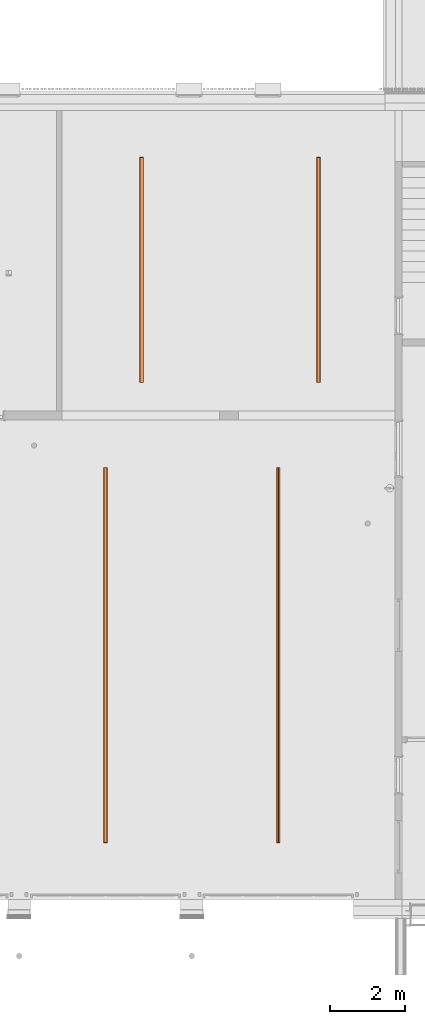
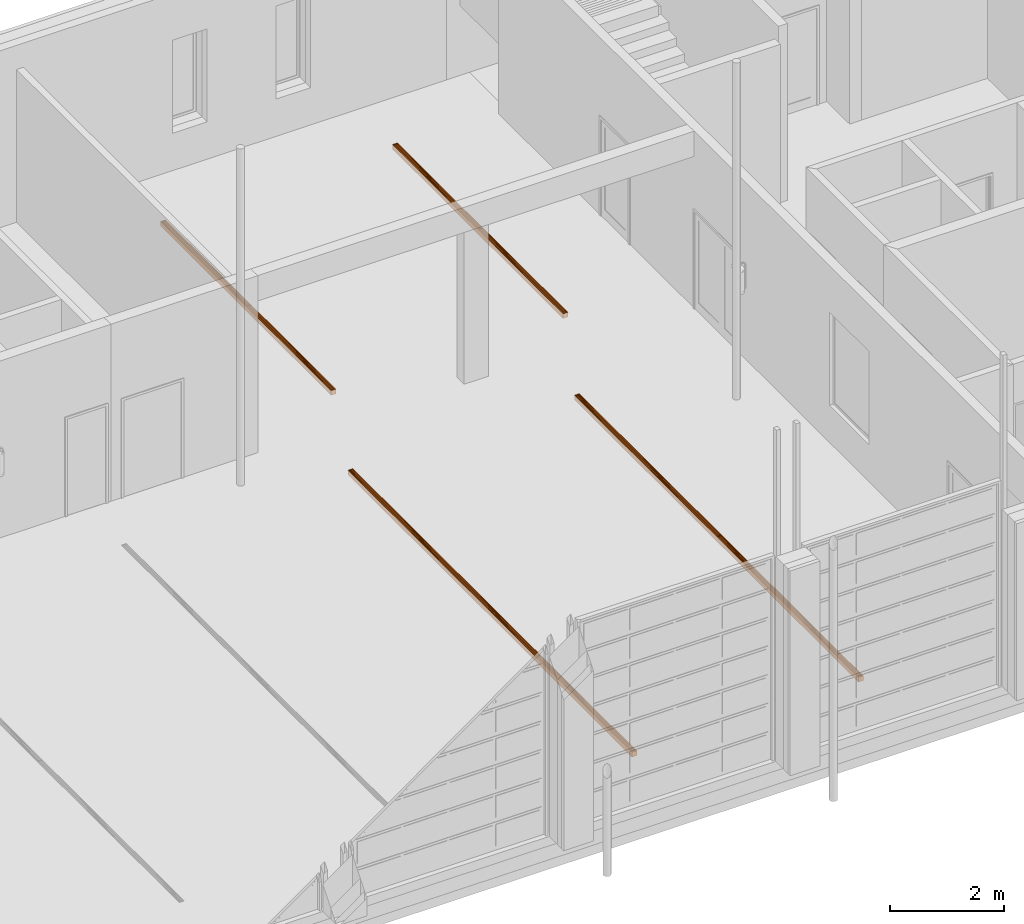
# One storey, part 67 of 112: 4 proxies.
"""IFC2X3 building model written with IfcOpenShell, lengths in millimetres."""

from ifc_helpers import new_model, entity, si_unit, converted_unit, derived_unit, money_unit, direction, frame, origin_with_axes, place, context, subcontext, project, spatial, faceted_brep, source, transform, mapped, type_object, element, save


model = new_model("IFC2X3")

# Units and contexts
model_context = context("Model", 3, precision=0.01, world=origin_with_axes(), true_north=direction((0.0, 1.0)))
body_context = subcontext(model_context, "Body", "Model", "MODEL_VIEW")
ifc_project = project(units=[si_unit("LENGTHUNIT", "METRE", prefix="MILLI"), si_unit("AREAUNIT", "SQUARE_METRE"), si_unit("VOLUMEUNIT", "CUBIC_METRE"), converted_unit("PLANEANGLEUNIT", "DEGREE", entity("IfcPlaneAngleMeasure", 0.0174532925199), si_unit("PLANEANGLEUNIT", "RADIAN"), dimensions=[0, 0, 0, 0, 0, 0, 0]), si_unit("SOLIDANGLEUNIT", "STERADIAN"), money_unit("EUR"), converted_unit("TIMEUNIT", "Year", entity("IfcTimeMeasure", 31556926.0), si_unit("TIMEUNIT", "SECOND"), dimensions=[0, 0, 1, 0, 0, 0, 0]), si_unit("MASSUNIT", "GRAM", prefix="KILO"), si_unit("THERMODYNAMICTEMPERATUREUNIT", "DEGREE_CELSIUS"), si_unit("LUMINOUSINTENSITYUNIT", "LUMEN"), si_unit("ENERGYUNIT", "JOULE", prefix="MEGA"), derived_unit("THERMALCONDUCTANCEUNIT", [(si_unit("POWERUNIT", "WATT"), 1), (si_unit("LENGTHUNIT", "METRE"), -1), (si_unit("THERMODYNAMICTEMPERATUREUNIT", "KELVIN"), -1)]), derived_unit("SPECIFICHEATCAPACITYUNIT", [(si_unit("ENERGYUNIT", "JOULE"), 1), (si_unit("MASSUNIT", "GRAM", prefix="KILO"), -1), (si_unit("THERMODYNAMICTEMPERATUREUNIT", "KELVIN"), -1)]), derived_unit("MASSDENSITYUNIT", [(si_unit("MASSUNIT", "GRAM", prefix="KILO"), 1), (si_unit("VOLUMEUNIT", "CUBIC_METRE"), -1)])], contexts=[model_context])

# Site, building, storey
site_placement = place(None, origin_with_axes())
site = spatial("IfcSite", under=ifc_project, at=site_placement, Name="Politse- ja Piirivalveameti ning Päästeameti ühishoone", CompositionType="ELEMENT")
building_placement = place(site_placement, origin_with_axes())
building = spatial("IfcBuilding", under=site, at=building_placement, Name="Politse- ja Piirivalveameti ning Päästeameti ühishoone", CompositionType="ELEMENT")
storey_placement = place(building_placement, origin_with_axes())
storey = spatial("IfcBuildingStorey", under=building, at=storey_placement, Name="Esimene korrus", CompositionType="ELEMENT", Elevation=0.0)

# Proxies
building_element_proxy_type = type_object("IfcBuildingElementProxyType", Name="Grid 23", PredefinedType="NOTDEFINED")
shared_shape_1 = source(origin_with_axes(), body_context, "Body", "Brep", [
    faceted_brep([(0.0, 0.0, 0.0), (5.0, 5.0, 0.0), (5.0, 5.0, 100.0), (0.0, 0.0, 100.0), (0.0, 10000.0, 0.0), (5.0, 9995.0, 0.0), (5.0, 5001.0, 0.0), (5.0, 4999.0, 0.0), (5.0, 4999.0, 100.0), (5.0, 5001.0, 100.0), (5.0, 9995.0, 100.0), (0.0, 10000.0, 100.0)], [[[0, 1, 2, 3]], [[0, 4, 5, 6, 7, 1]], [[1, 7, 8, 2]], [[3, 2, 8, 9, 10, 11]], [[4, 0, 3, 11]], [[5, 4, 11, 10]], [[6, 5, 10, 9]], [[7, 6, 9, 8]]]),
    faceted_brep([(100.0, 10000.0, 0.0), (95.0, 9995.0, 0.0), (95.0, 9995.0, 100.0), (100.0, 10000.0, 100.0), (100.0, 0.0, 0.0), (95.0, 5.0, 0.0), (95.0, 4999.0, 0.0), (95.0, 5001.0, 0.0), (95.0, 5001.0, 100.0), (95.0, 4999.0, 100.0), (95.0, 5.0, 100.0), (100.0, 0.0, 100.0)], [[[0, 1, 2, 3]], [[0, 4, 5, 6, 7, 1]], [[1, 7, 8, 2]], [[3, 2, 8, 9, 10, 11]], [[4, 0, 3, 11]], [[5, 4, 11, 10]], [[6, 5, 10, 9]], [[7, 6, 9, 8]]]),
    faceted_brep([(100.0, 0.0, 0.0), (95.0, 5.0, 0.0), (95.0, 5.0, 100.0), (100.0, 0.0, 100.0), (0.0, 0.0, 0.0), (5.0, 5.0, 0.0), (25.25, 5.0, 0.0), (27.25, 5.0, 0.0), (49.0, 5.0, 0.0), (51.0, 5.0, 0.0), (72.75, 5.0, 0.0), (74.75, 5.0, 0.0), (74.75, 5.0, 100.0), (72.75, 5.0, 100.0), (51.0, 5.0, 100.0), (49.0, 5.0, 100.0), (27.25, 5.0, 100.0), (25.25, 5.0, 100.0), (5.0, 5.0, 100.0), (0.0, 0.0, 100.0)], [[[0, 1, 2, 3]], [[0, 4, 5, 6, 7, 8, 9, 10, 11, 1]], [[1, 11, 12, 2]], [[3, 2, 12, 13, 14, 15, 16, 17, 18, 19]], [[4, 0, 3, 19]], [[5, 4, 19, 18]], [[6, 5, 18, 17]], [[7, 6, 17, 16]], [[8, 7, 16, 15]], [[9, 8, 15, 14]], [[10, 9, 14, 13]], [[11, 10, 13, 12]]]),
    faceted_brep([(0.0, 10000.0, 0.0), (5.0, 9995.0, 0.0), (5.0, 9995.0, 100.0), (0.0, 10000.0, 100.0), (100.0, 10000.0, 0.0), (95.0, 9995.0, 0.0), (74.75, 9995.0, 0.0), (72.75, 9995.0, 0.0), (51.0, 9995.0, 0.0), (49.0, 9995.0, 0.0), (27.25, 9995.0, 0.0), (25.25, 9995.0, 0.0), (25.25, 9995.0, 100.0), (27.25, 9995.0, 100.0), (49.0, 9995.0, 100.0), (51.0, 9995.0, 100.0), (72.75, 9995.0, 100.0), (74.75, 9995.0, 100.0), (95.0, 9995.0, 100.0), (100.0, 10000.0, 100.0)], [[[0, 1, 2, 3]], [[0, 4, 5, 6, 7, 8, 9, 10, 11, 1]], [[1, 11, 12, 2]], [[3, 2, 12, 13, 14, 15, 16, 17, 18, 19]], [[4, 0, 3, 19]], [[5, 4, 19, 18]], [[6, 5, 18, 17]], [[7, 6, 17, 16]], [[8, 7, 16, 15]], [[9, 8, 15, 14]], [[10, 9, 14, 13]], [[11, 10, 13, 12]]]),
    faceted_brep([(25.25, 5.0, 0.0), (27.25, 5.0, 0.0), (27.25, 5.0, 100.0), (25.25, 5.0, 100.0), (25.25, 4999.0, 0.0), (25.25, 5001.0, 0.0), (25.25, 9995.0, 0.0), (27.25, 9995.0, 0.0), (27.25, 5001.0, 0.0), (27.25, 4999.0, 0.0), (27.25, 4999.0, 100.0), (27.25, 5001.0, 100.0), (27.25, 9995.0, 100.0), (25.25, 9995.0, 100.0), (25.25, 5001.0, 100.0), (25.25, 4999.0, 100.0)], [[[0, 1, 2, 3]], [[0, 4, 5, 6, 7, 8, 9, 1]], [[1, 9, 10, 2]], [[3, 2, 10, 11, 12, 13, 14, 15]], [[4, 0, 3, 15]], [[5, 4, 15, 14]], [[6, 5, 14, 13]], [[7, 6, 13, 12]], [[8, 7, 12, 11]], [[9, 8, 11, 10]]]),
    faceted_brep([(49.0, 5.0, 0.0), (51.0, 5.0, 0.0), (51.0, 5.0, 100.0), (49.0, 5.0, 100.0), (49.0, 4999.0, 0.0), (49.0, 5001.0, 0.0), (49.0, 9995.0, 0.0), (51.0, 9995.0, 0.0), (51.0, 5001.0, 0.0), (51.0, 4999.0, 0.0), (51.0, 4999.0, 100.0), (51.0, 5001.0, 100.0), (51.0, 9995.0, 100.0), (49.0, 9995.0, 100.0), (49.0, 5001.0, 100.0), (49.0, 4999.0, 100.0)], [[[0, 1, 2, 3]], [[0, 4, 5, 6, 7, 8, 9, 1]], [[1, 9, 10, 2]], [[3, 2, 10, 11, 12, 13, 14, 15]], [[4, 0, 3, 15]], [[5, 4, 15, 14]], [[6, 5, 14, 13]], [[7, 6, 13, 12]], [[8, 7, 12, 11]], [[9, 8, 11, 10]]]),
    faceted_brep([(72.75, 5.0, 0.0), (74.75, 5.0, 0.0), (74.75, 5.0, 100.0), (72.75, 5.0, 100.0), (72.75, 4999.0, 0.0), (72.75, 5001.0, 0.0), (72.75, 9995.0, 0.0), (74.75, 9995.0, 0.0), (74.75, 5001.0, 0.0), (74.75, 4999.0, 0.0), (74.75, 4999.0, 100.0), (74.75, 5001.0, 100.0), (74.75, 9995.0, 100.0), (72.75, 9995.0, 100.0), (72.75, 5001.0, 100.0), (72.75, 4999.0, 100.0)], [[[0, 1, 2, 3]], [[0, 4, 5, 6, 7, 8, 9, 1]], [[1, 9, 10, 2]], [[3, 2, 10, 11, 12, 13, 14, 15]], [[4, 0, 3, 15]], [[5, 4, 15, 14]], [[6, 5, 14, 13]], [[7, 6, 13, 12]], [[8, 7, 12, 11]], [[9, 8, 11, 10]]]),
    faceted_brep([(25.25, 4999.0, 0.0), (25.25, 5001.0, 0.0), (25.25, 5001.0, 100.0), (25.25, 4999.0, 100.0), (5.0, 4999.0, 0.0), (5.0, 5001.0, 0.0), (5.0, 5001.0, 100.0), (5.0, 4999.0, 100.0)], [[[0, 1, 2, 3]], [[0, 4, 5, 1]], [[1, 5, 6, 2]], [[3, 2, 6, 7]], [[4, 0, 3, 7]], [[5, 4, 7, 6]]]),
    faceted_brep([(49.0, 4999.0, 0.0), (49.0, 5001.0, 0.0), (49.0, 5001.0, 100.0), (49.0, 4999.0, 100.0), (27.25, 4999.0, 0.0), (27.25, 5001.0, 0.0), (27.25, 5001.0, 100.0), (27.25, 4999.0, 100.0)], [[[0, 1, 2, 3]], [[0, 4, 5, 1]], [[1, 5, 6, 2]], [[3, 2, 6, 7]], [[4, 0, 3, 7]], [[5, 4, 7, 6]]]),
    faceted_brep([(72.75, 4999.0, 0.0), (72.75, 5001.0, 0.0), (72.75, 5001.0, 100.0), (72.75, 4999.0, 100.0), (51.0, 4999.0, 0.0), (51.0, 5001.0, 0.0), (51.0, 5001.0, 100.0), (51.0, 4999.0, 100.0)], [[[0, 1, 2, 3]], [[0, 4, 5, 1]], [[1, 5, 6, 2]], [[3, 2, 6, 7]], [[4, 0, 3, 7]], [[5, 4, 7, 6]]]),
    faceted_brep([(95.0, 4999.0, 0.0), (95.0, 5001.0, 0.0), (95.0, 5001.0, 100.0), (95.0, 4999.0, 100.0), (74.75, 4999.0, 0.0), (74.75, 5001.0, 0.0), (74.75, 5001.0, 100.0), (74.75, 4999.0, 100.0)], [[[0, 1, 2, 3]], [[0, 4, 5, 1]], [[1, 5, 6, 2]], [[3, 2, 6, 7]], [[4, 0, 3, 7]], [[5, 4, 7, 6]]]),
    faceted_brep([(5.0, 5.0, 43.65), (25.25, 5.0, 43.65), (25.25, 5.0, 56.35), (5.0, 5.0, 56.35), (5.0, 4999.0, 43.65), (25.25, 4999.0, 43.65), (25.25, 4999.0, 56.35), (5.0, 4999.0, 56.35)], [[[0, 1, 2, 3]], [[0, 4, 5, 1]], [[1, 5, 6, 2]], [[3, 2, 6, 7]], [[4, 0, 3, 7]], [[5, 4, 7, 6]]]),
    faceted_brep([(5.0, 5001.0, 43.65), (25.25, 5001.0, 43.65), (25.25, 5001.0, 56.35), (5.0, 5001.0, 56.35), (5.0, 9995.0, 43.65), (25.25, 9995.0, 43.65), (25.25, 9995.0, 56.35), (5.0, 9995.0, 56.35)], [[[0, 1, 2, 3]], [[0, 4, 5, 1]], [[1, 5, 6, 2]], [[3, 2, 6, 7]], [[4, 0, 3, 7]], [[5, 4, 7, 6]]]),
    faceted_brep([(27.25, 5.0, 43.65), (49.0, 5.0, 43.65), (49.0, 5.0, 56.35), (27.25, 5.0, 56.35), (27.25, 4999.0, 43.65), (49.0, 4999.0, 43.65), (49.0, 4999.0, 56.35), (27.25, 4999.0, 56.35)], [[[0, 1, 2, 3]], [[0, 4, 5, 1]], [[1, 5, 6, 2]], [[3, 2, 6, 7]], [[4, 0, 3, 7]], [[5, 4, 7, 6]]]),
    faceted_brep([(27.25, 5001.0, 43.65), (49.0, 5001.0, 43.65), (49.0, 5001.0, 56.35), (27.25, 5001.0, 56.35), (27.25, 9995.0, 43.65), (49.0, 9995.0, 43.65), (49.0, 9995.0, 56.35), (27.25, 9995.0, 56.35)], [[[0, 1, 2, 3]], [[0, 4, 5, 1]], [[1, 5, 6, 2]], [[3, 2, 6, 7]], [[4, 0, 3, 7]], [[5, 4, 7, 6]]]),
    faceted_brep([(51.0, 5.0, 43.65), (72.75, 5.0, 43.65), (72.75, 5.0, 56.35), (51.0, 5.0, 56.35), (51.0, 4999.0, 43.65), (72.75, 4999.0, 43.65), (72.75, 4999.0, 56.35), (51.0, 4999.0, 56.35)], [[[0, 1, 2, 3]], [[0, 4, 5, 1]], [[1, 5, 6, 2]], [[3, 2, 6, 7]], [[4, 0, 3, 7]], [[5, 4, 7, 6]]]),
    faceted_brep([(51.0, 5001.0, 43.65), (72.75, 5001.0, 43.65), (72.75, 5001.0, 56.35), (51.0, 5001.0, 56.35), (51.0, 9995.0, 43.65), (72.75, 9995.0, 43.65), (72.75, 9995.0, 56.35), (51.0, 9995.0, 56.35)], [[[0, 1, 2, 3]], [[0, 4, 5, 1]], [[1, 5, 6, 2]], [[3, 2, 6, 7]], [[4, 0, 3, 7]], [[5, 4, 7, 6]]]),
    faceted_brep([(74.75, 5.0, 43.65), (95.0, 5.0, 43.65), (95.0, 5.0, 56.35), (74.75, 5.0, 56.35), (74.75, 4999.0, 43.65), (95.0, 4999.0, 43.65), (95.0, 4999.0, 56.35), (74.75, 4999.0, 56.35)], [[[0, 1, 2, 3]], [[0, 4, 5, 1]], [[1, 5, 6, 2]], [[3, 2, 6, 7]], [[4, 0, 3, 7]], [[5, 4, 7, 6]]]),
    faceted_brep([(74.75, 5001.0, 43.65), (95.0, 5001.0, 43.65), (95.0, 5001.0, 56.35), (74.75, 5001.0, 56.35), (74.75, 9995.0, 43.65), (95.0, 9995.0, 43.65), (95.0, 9995.0, 56.35), (74.75, 9995.0, 56.35)], [[[0, 1, 2, 3]], [[0, 4, 5, 1]], [[1, 5, 6, 2]], [[3, 2, 6, 7]], [[4, 0, 3, 7]], [[5, 4, 7, 6]]]),
])
for number, where, z_axis, x_axis, name in (
    (1, (52209.3130938, 1502.5, -100.0), (0.0, 0.0, 1.0), (1.0, 0.0, 0.0), "Äravoolurenn (114)"),
    (2, (56809.3201216, 1502.5, -100.0), (0.0, 0.0, 1.0), (1.0, 0.0, 0.0), "Äravoolurenn (114)"),
):
    element("IfcBuildingElementProxy", number, at=place(storey_placement, frame(where, z_axis=z_axis, x_axis=x_axis)), inside=storey, type_object=building_element_proxy_type, Name=name, context=body_context, shape_type="MappedRepresentation", body=[
        mapped(shared_shape_1, transform((0.0, 0.0, 0.0))),
    ])
shared_shape_2 = source(origin_with_axes(), body_context, "Body", "Brep", [
    faceted_brep([(0.0, 0.0, 0.0), (5.0, 5.0, 0.0), (5.0, 5.0, 100.0), (0.0, 0.0, 100.0), (0.0, 6000.0, 0.0), (5.0, 5995.0, 0.0), (5.0, 3001.0, 0.0), (5.0, 2999.0, 0.0), (5.0, 2999.0, 100.0), (5.0, 3001.0, 100.0), (5.0, 5995.0, 100.0), (0.0, 6000.0, 100.0)], [[[0, 1, 2, 3]], [[0, 4, 5, 6, 7, 1]], [[1, 7, 8, 2]], [[3, 2, 8, 9, 10, 11]], [[4, 0, 3, 11]], [[5, 4, 11, 10]], [[6, 5, 10, 9]], [[7, 6, 9, 8]]]),
    faceted_brep([(100.0, 6000.0, 0.0), (95.0, 5995.0, 0.0), (95.0, 5995.0, 100.0), (100.0, 6000.0, 100.0), (100.0, 0.0, 0.0), (95.0, 5.0, 0.0), (95.0, 2999.0, 0.0), (95.0, 3001.0, 0.0), (95.0, 3001.0, 100.0), (95.0, 2999.0, 100.0), (95.0, 5.0, 100.0), (100.0, 0.0, 100.0)], [[[0, 1, 2, 3]], [[0, 4, 5, 6, 7, 1]], [[1, 7, 8, 2]], [[3, 2, 8, 9, 10, 11]], [[4, 0, 3, 11]], [[5, 4, 11, 10]], [[6, 5, 10, 9]], [[7, 6, 9, 8]]]),
    faceted_brep([(100.0, 0.0, 0.0), (95.0, 5.0, 0.0), (95.0, 5.0, 100.0), (100.0, 0.0, 100.0), (0.0, 0.0, 0.0), (5.0, 5.0, 0.0), (25.25, 5.0, 0.0), (27.25, 5.0, 0.0), (49.0, 5.0, 0.0), (51.0, 5.0, 0.0), (72.75, 5.0, 0.0), (74.75, 5.0, 0.0), (74.75, 5.0, 100.0), (72.75, 5.0, 100.0), (51.0, 5.0, 100.0), (49.0, 5.0, 100.0), (27.25, 5.0, 100.0), (25.25, 5.0, 100.0), (5.0, 5.0, 100.0), (0.0, 0.0, 100.0)], [[[0, 1, 2, 3]], [[0, 4, 5, 6, 7, 8, 9, 10, 11, 1]], [[1, 11, 12, 2]], [[3, 2, 12, 13, 14, 15, 16, 17, 18, 19]], [[4, 0, 3, 19]], [[5, 4, 19, 18]], [[6, 5, 18, 17]], [[7, 6, 17, 16]], [[8, 7, 16, 15]], [[9, 8, 15, 14]], [[10, 9, 14, 13]], [[11, 10, 13, 12]]]),
    faceted_brep([(0.0, 6000.0, 0.0), (5.0, 5995.0, 0.0), (5.0, 5995.0, 100.0), (0.0, 6000.0, 100.0), (100.0, 6000.0, 0.0), (95.0, 5995.0, 0.0), (74.75, 5995.0, 0.0), (72.75, 5995.0, 0.0), (51.0, 5995.0, 0.0), (49.0, 5995.0, 0.0), (27.25, 5995.0, 0.0), (25.25, 5995.0, 0.0), (25.25, 5995.0, 100.0), (27.25, 5995.0, 100.0), (49.0, 5995.0, 100.0), (51.0, 5995.0, 100.0), (72.75, 5995.0, 100.0), (74.75, 5995.0, 100.0), (95.0, 5995.0, 100.0), (100.0, 6000.0, 100.0)], [[[0, 1, 2, 3]], [[0, 4, 5, 6, 7, 8, 9, 10, 11, 1]], [[1, 11, 12, 2]], [[3, 2, 12, 13, 14, 15, 16, 17, 18, 19]], [[4, 0, 3, 19]], [[5, 4, 19, 18]], [[6, 5, 18, 17]], [[7, 6, 17, 16]], [[8, 7, 16, 15]], [[9, 8, 15, 14]], [[10, 9, 14, 13]], [[11, 10, 13, 12]]]),
    faceted_brep([(25.25, 5.0, 0.0), (27.25, 5.0, 0.0), (27.25, 5.0, 100.0), (25.25, 5.0, 100.0), (25.25, 2999.0, 0.0), (25.25, 3001.0, 0.0), (25.25, 5995.0, 0.0), (27.25, 5995.0, 0.0), (27.25, 3001.0, 0.0), (27.25, 2999.0, 0.0), (27.25, 2999.0, 100.0), (27.25, 3001.0, 100.0), (27.25, 5995.0, 100.0), (25.25, 5995.0, 100.0), (25.25, 3001.0, 100.0), (25.25, 2999.0, 100.0)], [[[0, 1, 2, 3]], [[0, 4, 5, 6, 7, 8, 9, 1]], [[1, 9, 10, 2]], [[3, 2, 10, 11, 12, 13, 14, 15]], [[4, 0, 3, 15]], [[5, 4, 15, 14]], [[6, 5, 14, 13]], [[7, 6, 13, 12]], [[8, 7, 12, 11]], [[9, 8, 11, 10]]]),
    faceted_brep([(49.0, 5.0, 0.0), (51.0, 5.0, 0.0), (51.0, 5.0, 100.0), (49.0, 5.0, 100.0), (49.0, 2999.0, 0.0), (49.0, 3001.0, 0.0), (49.0, 5995.0, 0.0), (51.0, 5995.0, 0.0), (51.0, 3001.0, 0.0), (51.0, 2999.0, 0.0), (51.0, 2999.0, 100.0), (51.0, 3001.0, 100.0), (51.0, 5995.0, 100.0), (49.0, 5995.0, 100.0), (49.0, 3001.0, 100.0), (49.0, 2999.0, 100.0)], [[[0, 1, 2, 3]], [[0, 4, 5, 6, 7, 8, 9, 1]], [[1, 9, 10, 2]], [[3, 2, 10, 11, 12, 13, 14, 15]], [[4, 0, 3, 15]], [[5, 4, 15, 14]], [[6, 5, 14, 13]], [[7, 6, 13, 12]], [[8, 7, 12, 11]], [[9, 8, 11, 10]]]),
    faceted_brep([(72.75, 5.0, 0.0), (74.75, 5.0, 0.0), (74.75, 5.0, 100.0), (72.75, 5.0, 100.0), (72.75, 2999.0, 0.0), (72.75, 3001.0, 0.0), (72.75, 5995.0, 0.0), (74.75, 5995.0, 0.0), (74.75, 3001.0, 0.0), (74.75, 2999.0, 0.0), (74.75, 2999.0, 100.0), (74.75, 3001.0, 100.0), (74.75, 5995.0, 100.0), (72.75, 5995.0, 100.0), (72.75, 3001.0, 100.0), (72.75, 2999.0, 100.0)], [[[0, 1, 2, 3]], [[0, 4, 5, 6, 7, 8, 9, 1]], [[1, 9, 10, 2]], [[3, 2, 10, 11, 12, 13, 14, 15]], [[4, 0, 3, 15]], [[5, 4, 15, 14]], [[6, 5, 14, 13]], [[7, 6, 13, 12]], [[8, 7, 12, 11]], [[9, 8, 11, 10]]]),
    faceted_brep([(25.25, 2999.0, 0.0), (25.25, 3001.0, 0.0), (25.25, 3001.0, 100.0), (25.25, 2999.0, 100.0), (5.0, 2999.0, 0.0), (5.0, 3001.0, 0.0), (5.0, 3001.0, 100.0), (5.0, 2999.0, 100.0)], [[[0, 1, 2, 3]], [[0, 4, 5, 1]], [[1, 5, 6, 2]], [[3, 2, 6, 7]], [[4, 0, 3, 7]], [[5, 4, 7, 6]]]),
    faceted_brep([(49.0, 2999.0, 0.0), (49.0, 3001.0, 0.0), (49.0, 3001.0, 100.0), (49.0, 2999.0, 100.0), (27.25, 2999.0, 0.0), (27.25, 3001.0, 0.0), (27.25, 3001.0, 100.0), (27.25, 2999.0, 100.0)], [[[0, 1, 2, 3]], [[0, 4, 5, 1]], [[1, 5, 6, 2]], [[3, 2, 6, 7]], [[4, 0, 3, 7]], [[5, 4, 7, 6]]]),
    faceted_brep([(72.75, 2999.0, 0.0), (72.75, 3001.0, 0.0), (72.75, 3001.0, 100.0), (72.75, 2999.0, 100.0), (51.0, 2999.0, 0.0), (51.0, 3001.0, 0.0), (51.0, 3001.0, 100.0), (51.0, 2999.0, 100.0)], [[[0, 1, 2, 3]], [[0, 4, 5, 1]], [[1, 5, 6, 2]], [[3, 2, 6, 7]], [[4, 0, 3, 7]], [[5, 4, 7, 6]]]),
    faceted_brep([(95.0, 2999.0, 0.0), (95.0, 3001.0, 0.0), (95.0, 3001.0, 100.0), (95.0, 2999.0, 100.0), (74.75, 2999.0, 0.0), (74.75, 3001.0, 0.0), (74.75, 3001.0, 100.0), (74.75, 2999.0, 100.0)], [[[0, 1, 2, 3]], [[0, 4, 5, 1]], [[1, 5, 6, 2]], [[3, 2, 6, 7]], [[4, 0, 3, 7]], [[5, 4, 7, 6]]]),
    faceted_brep([(5.0, 5.0, 43.65), (25.25, 5.0, 43.65), (25.25, 5.0, 56.35), (5.0, 5.0, 56.35), (5.0, 2999.0, 43.65), (25.25, 2999.0, 43.65), (25.25, 2999.0, 56.35), (5.0, 2999.0, 56.35)], [[[0, 1, 2, 3]], [[0, 4, 5, 1]], [[1, 5, 6, 2]], [[3, 2, 6, 7]], [[4, 0, 3, 7]], [[5, 4, 7, 6]]]),
    faceted_brep([(5.0, 3001.0, 43.65), (25.25, 3001.0, 43.65), (25.25, 3001.0, 56.35), (5.0, 3001.0, 56.35), (5.0, 5995.0, 43.65), (25.25, 5995.0, 43.65), (25.25, 5995.0, 56.35), (5.0, 5995.0, 56.35)], [[[0, 1, 2, 3]], [[0, 4, 5, 1]], [[1, 5, 6, 2]], [[3, 2, 6, 7]], [[4, 0, 3, 7]], [[5, 4, 7, 6]]]),
    faceted_brep([(27.25, 5.0, 43.65), (49.0, 5.0, 43.65), (49.0, 5.0, 56.35), (27.25, 5.0, 56.35), (27.25, 2999.0, 43.65), (49.0, 2999.0, 43.65), (49.0, 2999.0, 56.35), (27.25, 2999.0, 56.35)], [[[0, 1, 2, 3]], [[0, 4, 5, 1]], [[1, 5, 6, 2]], [[3, 2, 6, 7]], [[4, 0, 3, 7]], [[5, 4, 7, 6]]]),
    faceted_brep([(27.25, 3001.0, 43.65), (49.0, 3001.0, 43.65), (49.0, 3001.0, 56.35), (27.25, 3001.0, 56.35), (27.25, 5995.0, 43.65), (49.0, 5995.0, 43.65), (49.0, 5995.0, 56.35), (27.25, 5995.0, 56.35)], [[[0, 1, 2, 3]], [[0, 4, 5, 1]], [[1, 5, 6, 2]], [[3, 2, 6, 7]], [[4, 0, 3, 7]], [[5, 4, 7, 6]]]),
    faceted_brep([(51.0, 5.0, 43.65), (72.75, 5.0, 43.65), (72.75, 5.0, 56.35), (51.0, 5.0, 56.35), (51.0, 2999.0, 43.65), (72.75, 2999.0, 43.65), (72.75, 2999.0, 56.35), (51.0, 2999.0, 56.35)], [[[0, 1, 2, 3]], [[0, 4, 5, 1]], [[1, 5, 6, 2]], [[3, 2, 6, 7]], [[4, 0, 3, 7]], [[5, 4, 7, 6]]]),
    faceted_brep([(51.0, 3001.0, 43.65), (72.75, 3001.0, 43.65), (72.75, 3001.0, 56.35), (51.0, 3001.0, 56.35), (51.0, 5995.0, 43.65), (72.75, 5995.0, 43.65), (72.75, 5995.0, 56.35), (51.0, 5995.0, 56.35)], [[[0, 1, 2, 3]], [[0, 4, 5, 1]], [[1, 5, 6, 2]], [[3, 2, 6, 7]], [[4, 0, 3, 7]], [[5, 4, 7, 6]]]),
    faceted_brep([(74.75, 5.0, 43.65), (95.0, 5.0, 43.65), (95.0, 5.0, 56.35), (74.75, 5.0, 56.35), (74.75, 2999.0, 43.65), (95.0, 2999.0, 43.65), (95.0, 2999.0, 56.35), (74.75, 2999.0, 56.35)], [[[0, 1, 2, 3]], [[0, 4, 5, 1]], [[1, 5, 6, 2]], [[3, 2, 6, 7]], [[4, 0, 3, 7]], [[5, 4, 7, 6]]]),
    faceted_brep([(74.75, 3001.0, 43.65), (95.0, 3001.0, 43.65), (95.0, 3001.0, 56.35), (74.75, 3001.0, 56.35), (74.75, 5995.0, 43.65), (95.0, 5995.0, 43.65), (95.0, 5995.0, 56.35), (74.75, 5995.0, 56.35)], [[[0, 1, 2, 3]], [[0, 4, 5, 1]], [[1, 5, 6, 2]], [[3, 2, 6, 7]], [[4, 0, 3, 7]], [[5, 4, 7, 6]]]),
])
for number, where, z_axis, x_axis, name in (
    (3, (53171.7919418, 13760.0038859, -100.0), (0.0, 0.0, 1.0), (1.0, 0.0, 0.0), "Äravoolurenn (128)"),
    (4, (57883.0489697, 13760.0038859, -100.0), (0.0, 0.0, 1.0), (1.0, 0.0, 0.0), "Äravoolurenn (129)"),
):
    element("IfcBuildingElementProxy", number, at=place(storey_placement, frame(where, z_axis=z_axis, x_axis=x_axis)), inside=storey, type_object=building_element_proxy_type, Name=name, context=body_context, shape_type="MappedRepresentation", body=[
        mapped(shared_shape_2, transform((0.0, 0.0, 0.0))),
    ])

save(model, "model.ifc")
